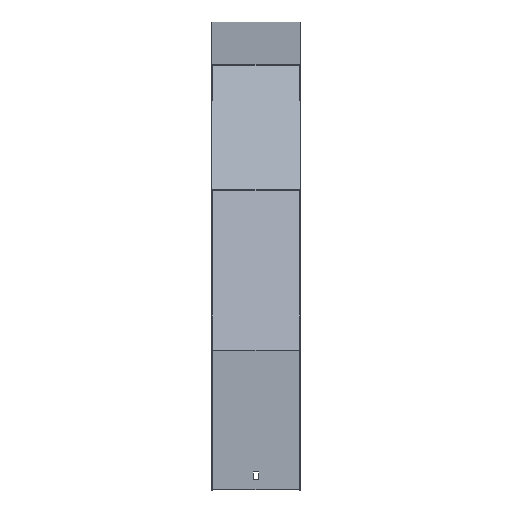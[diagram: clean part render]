
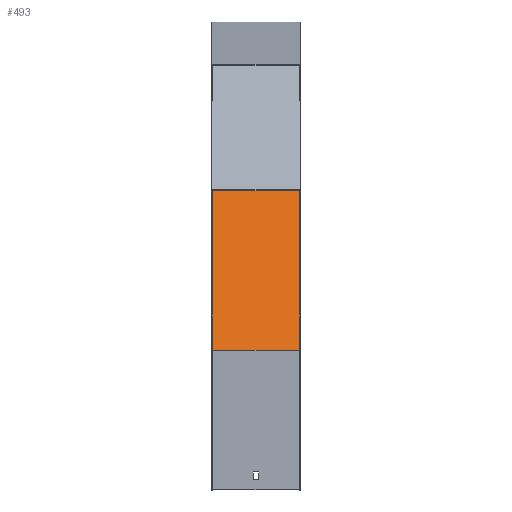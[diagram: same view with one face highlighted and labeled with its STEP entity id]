
A CAD part, top view. The second image highlights one B-rep face of the part: STEP entity #493.
In plain terms, the highlighted planar face has unit normal (0, 0.259, 0.966).
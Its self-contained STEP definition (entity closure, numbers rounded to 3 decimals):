
#11 = LINE ( 'NONE', #974, #853 ) ;
#63 = CARTESIAN_POINT ( 'NONE',  ( -51.5, -175.415, 494.514 ) ) ;
#68 = CARTESIAN_POINT ( 'NONE',  ( 51.5, -175.415, 494.514 ) ) ;
#75 = DIRECTION ( 'NONE',  ( -1., 0., 0. ) ) ;
#156 = ORIENTED_EDGE ( 'NONE', *, *, #813, .T. ) ;
#194 = ORIENTED_EDGE ( 'NONE', *, *, #575, .T. ) ;
#199 = ORIENTED_EDGE ( 'NONE', *, *, #937, .F. ) ;
#211 = VECTOR ( 'NONE', #621, 1000. ) ;
#228 = VERTEX_POINT ( 'NONE', #63 ) ;
#236 = CARTESIAN_POINT ( 'NONE',  ( 51.5, -180.591, 495.901 ) ) ;
#237 = CARTESIAN_POINT ( 'NONE',  ( 51.5, -361.831, 544.464 ) ) ;
#256 = DIRECTION ( 'NONE',  ( 0., 0.966, -0.259 ) ) ;
#356 = DIRECTION ( 'NONE',  ( 0., -0.966, 0.259 ) ) ;
#357 = VECTOR ( 'NONE', #75, 1000. ) ;
#453 = CARTESIAN_POINT ( 'NONE',  ( 51.5, -175.415, 494.514 ) ) ;
#471 = CARTESIAN_POINT ( 'NONE',  ( -51.5, -361.831, 544.464 ) ) ;
#474 = EDGE_CURVE ( 'NONE', #816, #779, #668, .T. ) ;
#493 = ADVANCED_FACE ( 'NONE', ( #754 ), #852, .F. ) ;
#575 = EDGE_CURVE ( 'NONE', #228, #779, #11, .T. ) ;
#586 = VERTEX_POINT ( 'NONE', #453 ) ;
#621 = DIRECTION ( 'NONE',  ( 0., -0.966, 0.259 ) ) ;
#667 = CARTESIAN_POINT ( 'NONE',  ( 51.5, -361.831, 544.464 ) ) ;
#668 = LINE ( 'NONE', #237, #1084 ) ;
#718 = ORIENTED_EDGE ( 'NONE', *, *, #474, .F. ) ;
#738 = LINE ( 'NONE', #236, #211 ) ;
#754 = FACE_OUTER_BOUND ( 'NONE', #1107, .T. ) ;
#760 = DIRECTION ( 'NONE',  ( -1., 0., 0. ) ) ;
#768 = LINE ( 'NONE', #68, #357 ) ;
#769 = DIRECTION ( 'NONE',  ( 0., -0.259, -0.966 ) ) ;
#779 = VERTEX_POINT ( 'NONE', #471 ) ;
#813 = EDGE_CURVE ( 'NONE', #586, #228, #768, .T. ) ;
#816 = VERTEX_POINT ( 'NONE', #667 ) ;
#852 = PLANE ( 'NONE',  #911 ) ;
#853 = VECTOR ( 'NONE', #356, 1000. ) ;
#911 = AXIS2_PLACEMENT_3D ( 'NONE', #1018, #769, #256 ) ;
#937 = EDGE_CURVE ( 'NONE', #586, #816, #738, .T. ) ;
#974 = CARTESIAN_POINT ( 'NONE',  ( -51.5, -180.591, 495.901 ) ) ;
#1018 = CARTESIAN_POINT ( 'NONE',  ( 51.5, -180.591, 495.901 ) ) ;
#1084 = VECTOR ( 'NONE', #760, 1000. ) ;
#1107 = EDGE_LOOP ( 'NONE', ( #194, #718, #199, #156 ) ) ;
